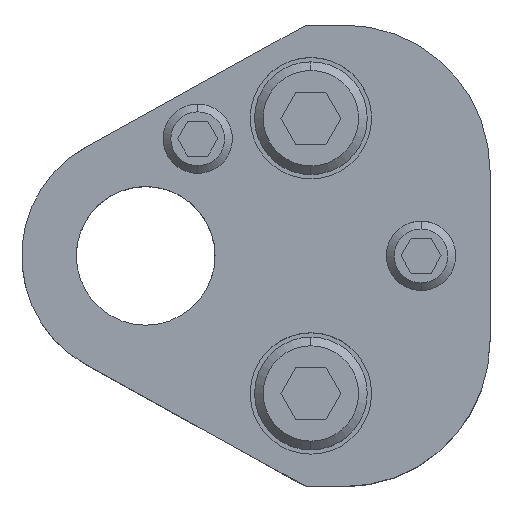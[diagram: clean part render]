
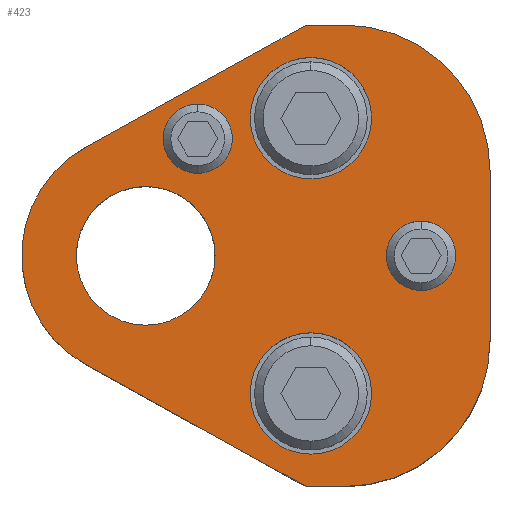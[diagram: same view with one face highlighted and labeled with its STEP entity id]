
A CAD part, top view. The second image highlights one B-rep face of the part: STEP entity #423.
In plain terms, the highlighted planar face has unit normal (0, 0, 1).
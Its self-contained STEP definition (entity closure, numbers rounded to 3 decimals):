
#198=FACE_BOUND('',#745,.T.);
#199=FACE_BOUND('',#746,.T.);
#200=FACE_BOUND('',#747,.T.);
#201=FACE_BOUND('',#748,.T.);
#202=FACE_BOUND('',#749,.T.);
#203=FACE_BOUND('',#750,.T.);
#273=CIRCLE('',#2385,16.8);
#275=CIRCLE('',#2389,16.8);
#277=CIRCLE('',#2394,4.);
#279=CIRCLE('',#2397,4.);
#281=CIRCLE('',#2400,4.);
#283=CIRCLE('',#2403,4.);
#293=CIRCLE('',#2418,14.3);
#294=CIRCLE('',#2419,7.);
#295=CIRCLE('',#2420,7.);
#296=CIRCLE('',#2421,7.);
#297=CIRCLE('',#2422,7.);
#298=CIRCLE('',#2423,8.);
#299=CIRCLE('',#2424,8.);
#423=ADVANCED_FACE('',(#198,#199,#200,#201,#202,#203),#519,.T.);
#519=PLANE('',#2425);
#745=EDGE_LOOP('',(#1122,#1123,#1124,#1125,#1126,#1127,#1128,#1129));
#746=EDGE_LOOP('',(#1130,#1131));
#747=EDGE_LOOP('',(#1132,#1133));
#748=EDGE_LOOP('',(#1134,#1135));
#749=EDGE_LOOP('',(#1136,#1137));
#750=EDGE_LOOP('',(#1138,#1139));
#1122=ORIENTED_EDGE('',*,*,#1794,.T.);
#1123=ORIENTED_EDGE('',*,*,#1752,.T.);
#1124=ORIENTED_EDGE('',*,*,#1756,.T.);
#1125=ORIENTED_EDGE('',*,*,#1759,.T.);
#1126=ORIENTED_EDGE('',*,*,#1762,.T.);
#1127=ORIENTED_EDGE('',*,*,#1765,.T.);
#1128=ORIENTED_EDGE('',*,*,#1768,.T.);
#1129=ORIENTED_EDGE('',*,*,#1795,.T.);
#1130=ORIENTED_EDGE('',*,*,#1796,.F.);
#1131=ORIENTED_EDGE('',*,*,#1797,.F.);
#1132=ORIENTED_EDGE('',*,*,#1798,.F.);
#1133=ORIENTED_EDGE('',*,*,#1799,.F.);
#1134=ORIENTED_EDGE('',*,*,#1780,.F.);
#1135=ORIENTED_EDGE('',*,*,#1776,.F.);
#1136=ORIENTED_EDGE('',*,*,#1774,.F.);
#1137=ORIENTED_EDGE('',*,*,#1770,.F.);
#1138=ORIENTED_EDGE('',*,*,#1800,.T.);
#1139=ORIENTED_EDGE('',*,*,#1801,.T.);
#1513=VERTEX_POINT('',#3544);
#1514=VERTEX_POINT('',#3546);
#1517=VERTEX_POINT('',#3553);
#1519=VERTEX_POINT('',#3559);
#1521=VERTEX_POINT('',#3565);
#1523=VERTEX_POINT('',#3571);
#1525=VERTEX_POINT('',#3577);
#1526=VERTEX_POINT('',#3582);
#1527=VERTEX_POINT('',#3583);
#1530=VERTEX_POINT('',#3594);
#1531=VERTEX_POINT('',#3595);
#1542=VERTEX_POINT('',#3630);
#1543=VERTEX_POINT('',#3633);
#1544=VERTEX_POINT('',#3634);
#1545=VERTEX_POINT('',#3637);
#1546=VERTEX_POINT('',#3638);
#1547=VERTEX_POINT('',#3641);
#1548=VERTEX_POINT('',#3642);
#1752=EDGE_CURVE('',#1514,#1513,#2006,.T.);
#1756=EDGE_CURVE('',#1513,#1517,#273,.T.);
#1759=EDGE_CURVE('',#1517,#1519,#2011,.T.);
#1762=EDGE_CURVE('',#1519,#1521,#275,.T.);
#1765=EDGE_CURVE('',#1521,#1523,#2015,.T.);
#1768=EDGE_CURVE('',#1523,#1525,#2018,.T.);
#1770=EDGE_CURVE('',#1526,#1527,#277,.T.);
#1774=EDGE_CURVE('',#1527,#1526,#279,.T.);
#1776=EDGE_CURVE('',#1530,#1531,#281,.T.);
#1780=EDGE_CURVE('',#1531,#1530,#283,.T.);
#1794=EDGE_CURVE('',#1542,#1514,#2028,.T.);
#1795=EDGE_CURVE('',#1525,#1542,#293,.T.);
#1796=EDGE_CURVE('',#1543,#1544,#294,.T.);
#1797=EDGE_CURVE('',#1544,#1543,#295,.T.);
#1798=EDGE_CURVE('',#1545,#1546,#296,.T.);
#1799=EDGE_CURVE('',#1546,#1545,#297,.T.);
#1800=EDGE_CURVE('',#1547,#1548,#298,.T.);
#1801=EDGE_CURVE('',#1548,#1547,#299,.T.);
#2006=LINE('',#3545,#2179);
#2011=LINE('',#3560,#2184);
#2015=LINE('',#3572,#2188);
#2018=LINE('',#3578,#2191);
#2028=LINE('',#3629,#2201);
#2179=VECTOR('',#2815,1.);
#2184=VECTOR('',#2828,1.);
#2188=VECTOR('',#2840,1.);
#2191=VECTOR('',#2845,1.);
#2201=VECTOR('',#2905,1.);
#2385=AXIS2_PLACEMENT_3D('',#3554,#2821,#2822);
#2389=AXIS2_PLACEMENT_3D('',#3566,#2833,#2834);
#2394=AXIS2_PLACEMENT_3D('',#3581,#2849,#2850);
#2397=AXIS2_PLACEMENT_3D('',#3590,#2857,#2858);
#2400=AXIS2_PLACEMENT_3D('',#3593,#2863,#2864);
#2403=AXIS2_PLACEMENT_3D('',#3602,#2871,#2872);
#2418=AXIS2_PLACEMENT_3D('',#3631,#2906,#2907);
#2419=AXIS2_PLACEMENT_3D('',#3632,#2908,#2909);
#2420=AXIS2_PLACEMENT_3D('',#3635,#2910,#2911);
#2421=AXIS2_PLACEMENT_3D('',#3636,#2912,#2913);
#2422=AXIS2_PLACEMENT_3D('',#3639,#2914,#2915);
#2423=AXIS2_PLACEMENT_3D('',#3640,#2916,#2917);
#2424=AXIS2_PLACEMENT_3D('',#3643,#2918,#2919);
#2425=AXIS2_PLACEMENT_3D('',#3644,#2920,#2921);
#2815=DIRECTION('',(1.,0.,0.));
#2821=DIRECTION('',(0.,0.,1.));
#2822=DIRECTION('',(-0.707,0.707,0.));
#2828=DIRECTION('',(0.,1.,0.));
#2833=DIRECTION('',(0.,0.,1.));
#2834=DIRECTION('',(-0.707,-0.707,0.));
#2840=DIRECTION('',(-1.,0.,0.));
#2845=DIRECTION('',(-0.875,-0.485,0.));
#2849=DIRECTION('',(0.,0.,1.));
#2850=DIRECTION('',(-1.,0.,0.));
#2857=DIRECTION('',(0.,0.,1.));
#2858=DIRECTION('',(1.,0.,0.));
#2863=DIRECTION('',(0.,0.,1.));
#2864=DIRECTION('',(-1.,0.,0.));
#2871=DIRECTION('',(0.,0.,1.));
#2872=DIRECTION('',(1.,0.,0.));
#2905=DIRECTION('',(0.875,-0.485,0.));
#2906=DIRECTION('',(0.,0.,1.));
#2907=DIRECTION('',(1.,0.,0.));
#2908=DIRECTION('',(0.,0.,1.));
#2909=DIRECTION('',(1.,0.,0.));
#2910=DIRECTION('',(0.,0.,1.));
#2911=DIRECTION('',(-1.,0.,0.));
#2912=DIRECTION('',(0.,0.,1.));
#2913=DIRECTION('',(1.,0.,0.));
#2914=DIRECTION('',(0.,0.,1.));
#2915=DIRECTION('',(-1.,0.,0.));
#2916=DIRECTION('',(0.,0.,-1.));
#2917=DIRECTION('',(-1.,0.,0.));
#2918=DIRECTION('',(0.,0.,-1.));
#2919=DIRECTION('',(1.,0.,0.));
#2920=DIRECTION('',(0.,0.,1.));
#2921=DIRECTION('',(-0.875,0.485,0.));
#3544=CARTESIAN_POINT('',(22.9,-26.6,25.));
#3545=CARTESIAN_POINT('',(18.492,-26.6,25.));
#3546=CARTESIAN_POINT('',(18.492,-26.6,25.));
#3553=CARTESIAN_POINT('',(39.7,-9.8,25.));
#3554=CARTESIAN_POINT('',(22.9,-9.8,25.));
#3559=CARTESIAN_POINT('',(39.7,9.8,25.));
#3560=CARTESIAN_POINT('',(39.7,9.8,25.));
#3565=CARTESIAN_POINT('',(22.9,26.6,25.));
#3566=CARTESIAN_POINT('',(22.9,9.8,25.));
#3571=CARTESIAN_POINT('',(18.492,26.6,25.));
#3572=CARTESIAN_POINT('',(18.492,26.6,25.));
#3577=CARTESIAN_POINT('',(-6.933,12.507,25.));
#3578=CARTESIAN_POINT('',(18.492,26.6,25.));
#3581=CARTESIAN_POINT('',(6.,13.5,25.));
#3582=CARTESIAN_POINT('',(6.,9.5,25.));
#3583=CARTESIAN_POINT('',(6.,17.5,25.));
#3590=CARTESIAN_POINT('',(6.,13.5,25.));
#3593=CARTESIAN_POINT('',(31.75,0.,25.));
#3594=CARTESIAN_POINT('',(31.75,-4.,25.));
#3595=CARTESIAN_POINT('',(31.75,4.,25.));
#3602=CARTESIAN_POINT('',(31.75,0.,25.));
#3629=CARTESIAN_POINT('',(18.492,-26.6,25.));
#3630=CARTESIAN_POINT('',(-6.933,-12.507,25.));
#3631=CARTESIAN_POINT('',(0.,0.,25.));
#3632=CARTESIAN_POINT('',(19.05,15.87,25.));
#3633=CARTESIAN_POINT('',(19.05,22.87,25.));
#3634=CARTESIAN_POINT('',(19.05,8.87,25.));
#3635=CARTESIAN_POINT('',(19.05,15.87,25.));
#3636=CARTESIAN_POINT('',(19.05,-15.87,25.));
#3637=CARTESIAN_POINT('',(19.05,-8.87,25.));
#3638=CARTESIAN_POINT('',(19.05,-22.87,25.));
#3639=CARTESIAN_POINT('',(19.05,-15.87,25.));
#3640=CARTESIAN_POINT('',(0.,0.,25.));
#3641=CARTESIAN_POINT('',(0.,8.,25.));
#3642=CARTESIAN_POINT('',(0.,-8.,25.));
#3643=CARTESIAN_POINT('',(0.,0.,25.));
#3644=CARTESIAN_POINT('',(-6.933,-12.507,25.));
